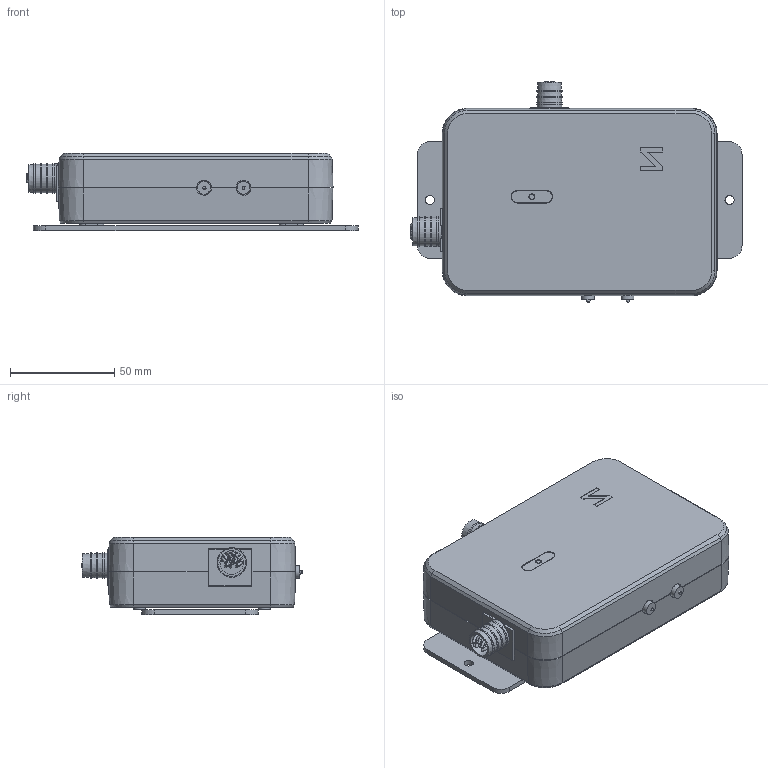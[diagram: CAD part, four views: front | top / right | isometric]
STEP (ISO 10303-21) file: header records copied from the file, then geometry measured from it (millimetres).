
FILE_DESCRIPTION(('FreeCAD Model'),'2;1');
FILE_NAME('Open CASCADE Shape Model','2026-10-24T12:00:10',('FreeCAD'),( 'FreeCAD'),'Open CASCADE STEP processor 7.8','FreeCAD','Unknown');
FILE_SCHEMA(('AUTOMOTIVE_DESIGN { 1 0 10303 214 1 1 1 1 }'));
Products named in the file (1): Open CASCADE STEP translator 7.8 15
Bounding box: 159.54 x 106.37 x 37.2 mm (x, y, z)
Volume: 148450.1 mm3; surface area: 133677.5 mm2
Topology: 273 solids, 275 shells, 8800 faces, 22275 edges, 14256 vertices
Faces by surface type: plane 6344, cylinder 1895, bspline 470, cone 55, torus 25, sphere 10, revolution 1
Full cylindrical faces by diameter (mm): 0.2 x1, 0.25 x1, 0.4 x3, 0.5 x2, 1.8 x18, 1.9 x2, 1.92 x2, 2 x10, 2.1 x4, 2.4 x2, 2.5 x2, 2.7 x4, 2.8 x2, 3.2 x4, 3.4 x2, 3.8 x1, 4.2 x1, 4.4 x2, 4.8 x4, 5.3 x4, 5.8 x4, 6 x2, 6.2 x2, 6.4 x2, 8 x2, 8.8 x1, 11.4 x1, 12.2 x3, 14.2 x4, 18.6 x1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
Entity records: 280209 total; most frequent: CARTESIAN_POINT 68887, ORIENTED_EDGE 44526, DIRECTION 42086, EDGE_CURVE 22265, LINE 17363, VECTOR 17363, VERTEX_POINT 14256, AXIS2_PLACEMENT_3D 12361
